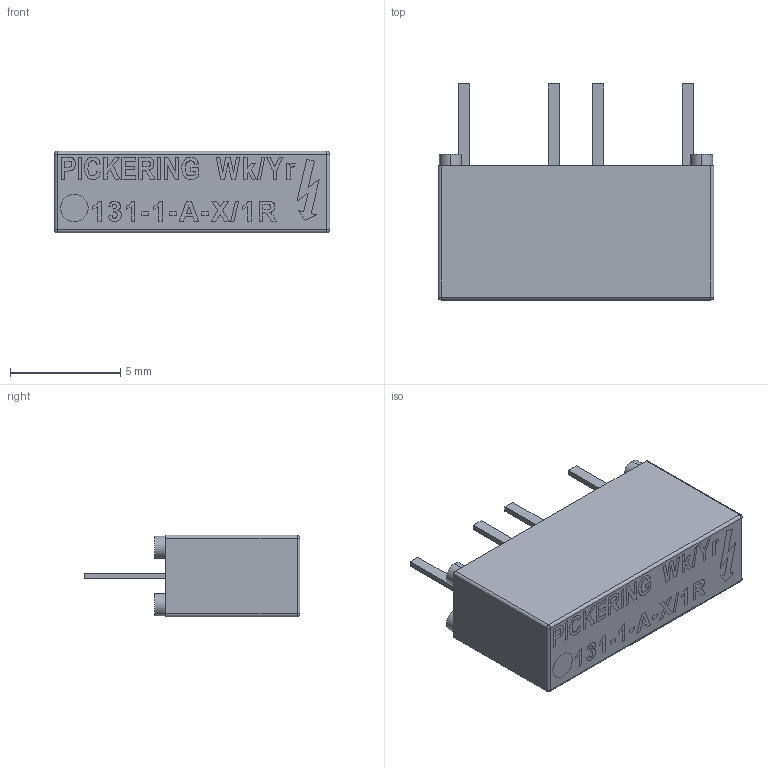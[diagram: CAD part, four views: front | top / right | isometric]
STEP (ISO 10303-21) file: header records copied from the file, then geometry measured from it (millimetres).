
FILE_DESCRIPTION (( 'STEP AP203' ), '1' );
FILE_NAME ('131-1-A-X-1R.STEP', '2020-02-13T16:13:09', ( '' ), ( '' ), 'SwSTEP 2.0', 'SolidWorks 2019', '' );
FILE_SCHEMA (( 'CONFIG_CONTROL_DESIGN' ));
Length unit declared in the file: millimetre
Products named in the file (1): 131-1-A-X-1R
Bounding box: 12.5 x 9.8 x 3.7 mm (x, y, z)
Volume: 285.4 mm3; surface area: 315.6 mm2
Topology: 1 solids, 1 shells, 346 faces, 904 edges, 596 vertices
Faces by surface type: plane 259, bspline 65, cylinder 18, sphere 4
Entity records: 13759 total; most frequent: CARTESIAN_POINT 5596, ORIENTED_EDGE 1800, DIRECTION 1370, EDGE_CURVE 900, LINE 734, VECTOR 734, VERTEX_POINT 596, EDGE_LOOP 386
